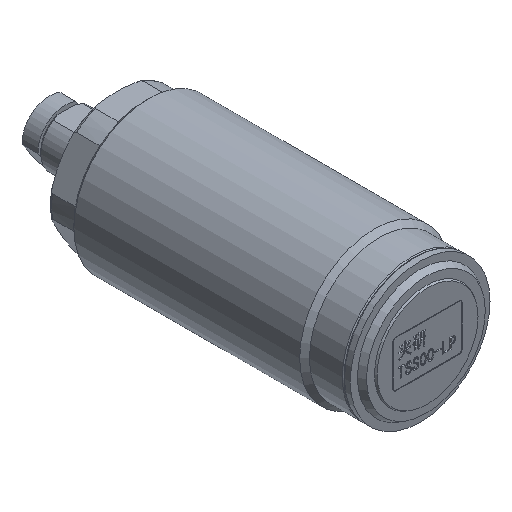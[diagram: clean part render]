
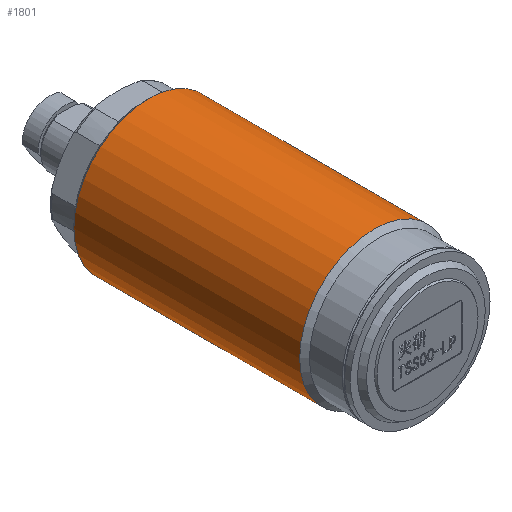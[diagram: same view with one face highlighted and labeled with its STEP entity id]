
A CAD part, isometric view. The second image highlights one B-rep face of the part: STEP entity #1801.
In plain terms, the highlighted cylindrical face has radius 13 mm (diameter 26 mm), a full revolution.
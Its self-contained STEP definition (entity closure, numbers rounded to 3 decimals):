
#1775=CYLINDRICAL_SURFACE('',#5587,13.);
#1801=ADVANCED_FACE('',(#2188,#2189),#1775,.T.);
#2188=FACE_BOUND('',#2289,.T.);
#2189=FACE_BOUND('',#2290,.T.);
#2289=EDGE_LOOP('',(#2669));
#2290=EDGE_LOOP('',(#2670));
#2585=CIRCLE('',#5584,13.);
#2586=CIRCLE('',#5586,13.);
#2669=ORIENTED_EDGE('',*,*,#4225,.F.);
#2670=ORIENTED_EDGE('',*,*,#4226,.T.);
#3825=VERTEX_POINT('',#6785);
#3826=VERTEX_POINT('',#6788);
#4225=EDGE_CURVE('',#3825,#3825,#2585,.T.);
#4226=EDGE_CURVE('',#3826,#3826,#2586,.T.);
#5584=AXIS2_PLACEMENT_3D('',#6784,#5867,#5868);
#5586=AXIS2_PLACEMENT_3D('',#6787,#5871,#5872);
#5587=AXIS2_PLACEMENT_3D('',#6789,#5873,#5874);
#5867=DIRECTION('',(0.,-1.,0.));
#5868=DIRECTION('',(0.,0.,-1.));
#5871=DIRECTION('',(0.,-1.,0.));
#5872=DIRECTION('',(0.,0.,-1.));
#5873=DIRECTION('',(0.,-1.,0.));
#5874=DIRECTION('',(0.,0.,-1.));
#6784=CARTESIAN_POINT('',(-17.301,9.25,0.));
#6785=CARTESIAN_POINT('',(-17.301,9.25,-13.));
#6787=CARTESIAN_POINT('',(-17.301,48.499,0.));
#6788=CARTESIAN_POINT('',(-17.301,48.499,-13.));
#6789=CARTESIAN_POINT('',(-17.301,-8.659,0.));
